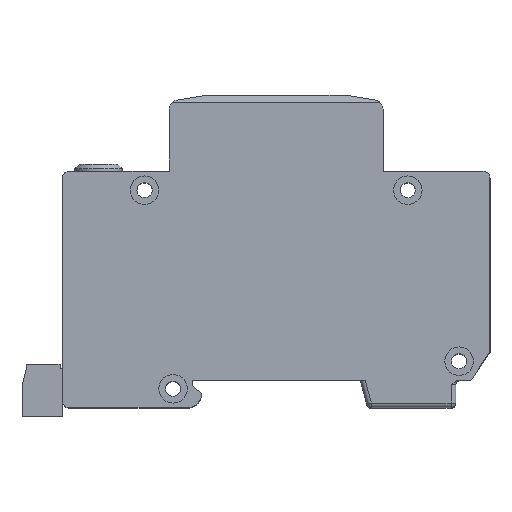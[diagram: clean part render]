
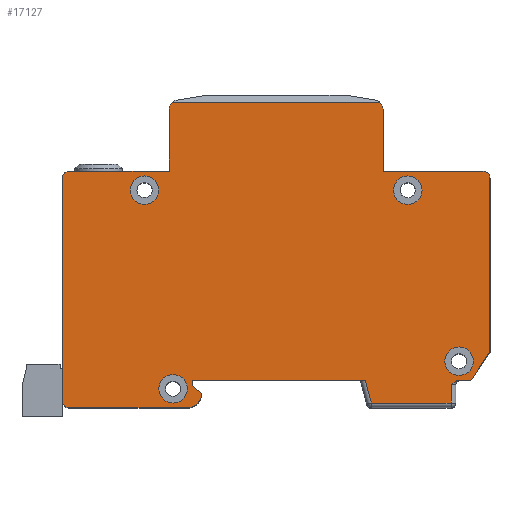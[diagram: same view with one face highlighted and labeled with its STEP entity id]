
A CAD part, top view. The second image highlights one B-rep face of the part: STEP entity #17127.
In plain terms, the highlighted planar face has unit normal (0, 0, 1).
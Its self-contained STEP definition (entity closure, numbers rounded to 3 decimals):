
#182=B_SPLINE_CURVE_WITH_KNOTS('',3,(#27237,#27238,#27239,#27240,#27241,
#27242),.UNSPECIFIED.,.F.,.F.,(4,2,4),(0.506,0.582,
0.7),.UNSPECIFIED.);
#252=FACE_BOUND('',#2508,.T.);
#253=FACE_BOUND('',#2509,.T.);
#254=FACE_BOUND('',#2510,.T.);
#255=FACE_BOUND('',#2511,.T.);
#545=CIRCLE('',#18406,1.5);
#547=CIRCLE('',#18437,1.5);
#549=CIRCLE('',#18443,3.);
#559=CIRCLE('',#18501,1.5);
#578=CIRCLE('',#18537,2.);
#579=CIRCLE('',#18538,2.);
#580=CIRCLE('',#18539,3.);
#581=CIRCLE('',#18540,3.);
#582=CIRCLE('',#18541,3.);
#583=CIRCLE('',#18542,3.);
#1517=FACE_OUTER_BOUND('',#2507,.T.);
#2507=EDGE_LOOP('',(#14101,#14102,#14103,#14104,#14105,#14106,#14107,#14108,
#14109,#14110,#14111,#14112,#14113,#14114,#14115,#14116,#14117,#14118,#14119,
#14120,#14121,#14122,#14123));
#2508=EDGE_LOOP('',(#14124));
#2509=EDGE_LOOP('',(#14125));
#2510=EDGE_LOOP('',(#14126));
#2511=EDGE_LOOP('',(#14127));
#3826=LINE('',#26226,#5821);
#4142=LINE('',#26915,#6137);
#4160=LINE('',#26952,#6155);
#4166=LINE('',#26968,#6161);
#4170=LINE('',#26976,#6165);
#4174=LINE('',#26988,#6169);
#4196=LINE('',#27047,#6191);
#4200=LINE('',#27056,#6195);
#4252=LINE('',#27156,#6247);
#4258=LINE('',#27174,#6253);
#4263=LINE('',#27223,#6258);
#4264=LINE('',#27227,#6259);
#4265=LINE('',#27230,#6260);
#4266=LINE('',#27232,#6261);
#4267=LINE('',#27234,#6262);
#4268=LINE('',#27236,#6263);
#5821=VECTOR('',#21318,10.);
#6137=VECTOR('',#21870,10.);
#6155=VECTOR('',#21910,10.);
#6161=VECTOR('',#21928,10.);
#6165=VECTOR('',#21936,10.);
#6169=VECTOR('',#21948,10.);
#6191=VECTOR('',#22012,10.);
#6195=VECTOR('',#22022,10.);
#6247=VECTOR('',#22118,10.);
#6253=VECTOR('',#22140,10.);
#6258=VECTOR('',#22207,10.);
#6259=VECTOR('',#22210,10.);
#6260=VECTOR('',#22213,10.);
#6261=VECTOR('',#22214,10.);
#6262=VECTOR('',#22215,10.);
#6263=VECTOR('',#22216,10.);
#7607=VERTEX_POINT('',#26223);
#7608=VERTEX_POINT('',#26225);
#7833=VERTEX_POINT('',#26805);
#7863=VERTEX_POINT('',#26913);
#7869=VERTEX_POINT('',#26942);
#7871=VERTEX_POINT('',#26950);
#7873=VERTEX_POINT('',#26958);
#7875=VERTEX_POINT('',#26966);
#7877=VERTEX_POINT('',#26974);
#7881=VERTEX_POINT('',#26986);
#7896=VERTEX_POINT('',#27044);
#7897=VERTEX_POINT('',#27046);
#7899=VERTEX_POINT('',#27054);
#7925=VERTEX_POINT('',#27154);
#7927=VERTEX_POINT('',#27162);
#7929=VERTEX_POINT('',#27172);
#7942=VERTEX_POINT('',#27222);
#7943=VERTEX_POINT('',#27224);
#7944=VERTEX_POINT('',#27226);
#7945=VERTEX_POINT('',#27228);
#7946=VERTEX_POINT('',#27231);
#7947=VERTEX_POINT('',#27233);
#7948=VERTEX_POINT('',#27235);
#7949=VERTEX_POINT('',#27243);
#7950=VERTEX_POINT('',#27245);
#7951=VERTEX_POINT('',#27247);
#7952=VERTEX_POINT('',#27249);
#9604=EDGE_CURVE('',#7608,#7607,#3826,.T.);
#9894=EDGE_CURVE('',#7833,#7607,#545,.T.);
#9950=EDGE_CURVE('',#7833,#7863,#4142,.T.);
#9966=EDGE_CURVE('',#7869,#7863,#547,.T.);
#9970=EDGE_CURVE('',#7869,#7871,#4160,.T.);
#9974=EDGE_CURVE('',#7871,#7873,#549,.T.);
#9978=EDGE_CURVE('',#7873,#7875,#4166,.T.);
#9982=EDGE_CURVE('',#7875,#7877,#4170,.T.);
#9988=EDGE_CURVE('',#7877,#7881,#4174,.T.);
#10017=EDGE_CURVE('',#7896,#7897,#4196,.T.);
#10022=EDGE_CURVE('',#7896,#7899,#4200,.T.);
#10074=EDGE_CURVE('',#7899,#7925,#4252,.T.);
#10078=EDGE_CURVE('',#7927,#7925,#559,.T.);
#10084=EDGE_CURVE('',#7927,#7929,#4258,.T.);
#10105=EDGE_CURVE('',#7929,#7942,#4263,.T.);
#10106=EDGE_CURVE('',#7943,#7942,#578,.T.);
#10107=EDGE_CURVE('',#7944,#7943,#4264,.T.);
#10108=EDGE_CURVE('',#7945,#7944,#579,.T.);
#10109=EDGE_CURVE('',#7945,#7608,#4265,.T.);
#10110=EDGE_CURVE('',#7946,#7881,#4266,.T.);
#10111=EDGE_CURVE('',#7947,#7946,#4267,.T.);
#10112=EDGE_CURVE('',#7948,#7947,#4268,.T.);
#10113=EDGE_CURVE('',#7897,#7948,#182,.T.);
#10114=EDGE_CURVE('',#7949,#7949,#580,.T.);
#10115=EDGE_CURVE('',#7950,#7950,#581,.T.);
#10116=EDGE_CURVE('',#7951,#7951,#582,.T.);
#10117=EDGE_CURVE('',#7952,#7952,#583,.T.);
#14101=ORIENTED_EDGE('',*,*,#10078,.F.);
#14102=ORIENTED_EDGE('',*,*,#10084,.T.);
#14103=ORIENTED_EDGE('',*,*,#10105,.T.);
#14104=ORIENTED_EDGE('',*,*,#10106,.F.);
#14105=ORIENTED_EDGE('',*,*,#10107,.F.);
#14106=ORIENTED_EDGE('',*,*,#10108,.F.);
#14107=ORIENTED_EDGE('',*,*,#10109,.T.);
#14108=ORIENTED_EDGE('',*,*,#9604,.T.);
#14109=ORIENTED_EDGE('',*,*,#9894,.F.);
#14110=ORIENTED_EDGE('',*,*,#9950,.T.);
#14111=ORIENTED_EDGE('',*,*,#9966,.F.);
#14112=ORIENTED_EDGE('',*,*,#9970,.T.);
#14113=ORIENTED_EDGE('',*,*,#9974,.T.);
#14114=ORIENTED_EDGE('',*,*,#9978,.T.);
#14115=ORIENTED_EDGE('',*,*,#9982,.T.);
#14116=ORIENTED_EDGE('',*,*,#9988,.T.);
#14117=ORIENTED_EDGE('',*,*,#10110,.F.);
#14118=ORIENTED_EDGE('',*,*,#10111,.F.);
#14119=ORIENTED_EDGE('',*,*,#10112,.F.);
#14120=ORIENTED_EDGE('',*,*,#10113,.F.);
#14121=ORIENTED_EDGE('',*,*,#10017,.F.);
#14122=ORIENTED_EDGE('',*,*,#10022,.T.);
#14123=ORIENTED_EDGE('',*,*,#10074,.T.);
#14124=ORIENTED_EDGE('',*,*,#10114,.T.);
#14125=ORIENTED_EDGE('',*,*,#10115,.T.);
#14126=ORIENTED_EDGE('',*,*,#10116,.T.);
#14127=ORIENTED_EDGE('',*,*,#10117,.T.);
#16289=PLANE('',#18536);
#17127=ADVANCED_FACE('',(#1517,#252,#253,#254,#255),#16289,.T.);
#18406=AXIS2_PLACEMENT_3D('',#26807,#21769,#21770);
#18437=AXIS2_PLACEMENT_3D('',#26944,#21901,#21902);
#18443=AXIS2_PLACEMENT_3D('',#26960,#21919,#21920);
#18501=AXIS2_PLACEMENT_3D('',#27164,#22127,#22128);
#18536=AXIS2_PLACEMENT_3D('',#27221,#22205,#22206);
#18537=AXIS2_PLACEMENT_3D('',#27225,#22208,#22209);
#18538=AXIS2_PLACEMENT_3D('',#27229,#22211,#22212);
#18539=AXIS2_PLACEMENT_3D('',#27244,#22217,#22218);
#18540=AXIS2_PLACEMENT_3D('',#27246,#22219,#22220);
#18541=AXIS2_PLACEMENT_3D('',#27248,#22221,#22222);
#18542=AXIS2_PLACEMENT_3D('',#27250,#22223,#22224);
#21318=DIRECTION('',(-1.,0.,0.));
#21769=DIRECTION('center_axis',(0.,0.,-1.));
#21770=DIRECTION('ref_axis',(-0.707,0.707,0.));
#21870=DIRECTION('',(0.,-1.,0.));
#21901=DIRECTION('center_axis',(0.,0.,-1.));
#21902=DIRECTION('ref_axis',(-0.707,-0.707,0.));
#21910=DIRECTION('',(1.,0.,0.));
#21919=DIRECTION('center_axis',(0.,0.,1.));
#21920=DIRECTION('ref_axis',(0.,-1.,0.));
#21928=DIRECTION('',(-0.781,0.625,0.));
#21936=DIRECTION('',(0.,1.,0.));
#21948=DIRECTION('',(1.,0.,0.));
#22012=DIRECTION('',(-1.,0.,0.));
#22022=DIRECTION('',(0.555,0.832,0.));
#22118=DIRECTION('',(0.,1.,0.));
#22127=DIRECTION('center_axis',(0.,0.,-1.));
#22128=DIRECTION('ref_axis',(0.707,0.707,0.));
#22140=DIRECTION('',(-1.,0.,0.));
#22205=DIRECTION('center_axis',(0.,0.,1.));
#22206=DIRECTION('ref_axis',(1.,0.,0.));
#22207=DIRECTION('',(0.,1.,0.));
#22208=DIRECTION('center_axis',(0.,0.,-1.));
#22209=DIRECTION('ref_axis',(0.762,0.648,0.));
#22210=DIRECTION('',(1.,0.,0.));
#22211=DIRECTION('center_axis',(0.,0.,-1.));
#22212=DIRECTION('ref_axis',(-0.762,0.648,0.));
#22213=DIRECTION('',(0.,-1.,0.));
#22214=DIRECTION('',(-0.259,0.966,0.));
#22215=DIRECTION('',(-1.,0.,0.));
#22216=DIRECTION('',(0.,-1.,0.));
#22217=DIRECTION('center_axis',(0.,0.,-1.));
#22218=DIRECTION('ref_axis',(1.,0.,0.));
#22219=DIRECTION('center_axis',(0.,0.,-1.));
#22220=DIRECTION('ref_axis',(1.,0.,0.));
#22221=DIRECTION('center_axis',(0.,0.,-1.));
#22222=DIRECTION('ref_axis',(1.,0.,0.));
#22223=DIRECTION('center_axis',(0.,0.,-1.));
#22224=DIRECTION('ref_axis',(1.,0.,0.));
#26223=CARTESIAN_POINT('',(-43.5,14.,17.5));
#26225=CARTESIAN_POINT('',(-22.5,14.,17.5));
#26226=CARTESIAN_POINT('',(-22.5,14.,17.5));
#26805=CARTESIAN_POINT('',(-45.,12.5,17.5));
#26807=CARTESIAN_POINT('Origin',(-43.5,12.5,17.5));
#26913=CARTESIAN_POINT('',(-45.,-34.3,17.5));
#26915=CARTESIAN_POINT('',(-45.,14.,17.5));
#26942=CARTESIAN_POINT('',(-43.5,-35.8,17.5));
#26944=CARTESIAN_POINT('Origin',(-43.5,-34.3,17.5));
#26950=CARTESIAN_POINT('',(-18.7,-35.8,17.5));
#26952=CARTESIAN_POINT('',(-45.,-35.8,17.5));
#26958=CARTESIAN_POINT('',(-15.7,-32.8,17.5));
#26960=CARTESIAN_POINT('Origin',(-18.7,-32.8,17.5));
#26966=CARTESIAN_POINT('',(-17.7,-31.2,17.5));
#26968=CARTESIAN_POINT('',(-15.7,-32.8,17.5));
#26974=CARTESIAN_POINT('',(-17.7,-30.,17.5));
#26976=CARTESIAN_POINT('',(-17.7,-31.2,17.5));
#26986=CARTESIAN_POINT('',(18.735,-30.,17.5));
#26988=CARTESIAN_POINT('',(-17.7,-30.,17.5));
#27044=CARTESIAN_POINT('',(41.,-30.,17.5));
#27046=CARTESIAN_POINT('',(38.532,-30.,17.5));
#27047=CARTESIAN_POINT('',(18.592,-30.,17.5));
#27054=CARTESIAN_POINT('',(45.,-24.,17.5));
#27056=CARTESIAN_POINT('',(41.,-30.,17.5));
#27154=CARTESIAN_POINT('',(45.,12.5,17.5));
#27156=CARTESIAN_POINT('',(45.,-24.,17.5));
#27162=CARTESIAN_POINT('',(43.5,14.,17.5));
#27164=CARTESIAN_POINT('Origin',(43.5,12.5,17.5));
#27172=CARTESIAN_POINT('',(22.5,14.,17.5));
#27174=CARTESIAN_POINT('',(45.,14.,17.5));
#27221=CARTESIAN_POINT('Origin',(-0.615,-5.122,17.5));
#27222=CARTESIAN_POINT('',(22.5,26.999,17.5));
#27223=CARTESIAN_POINT('',(22.5,14.,17.5));
#27224=CARTESIAN_POINT('',(21.821,28.5,17.5));
#27225=CARTESIAN_POINT('Origin',(20.5,26.999,17.5));
#27226=CARTESIAN_POINT('',(-21.821,28.5,17.5));
#27227=CARTESIAN_POINT('',(10.942,28.5,17.5));
#27228=CARTESIAN_POINT('',(-22.5,26.999,17.5));
#27229=CARTESIAN_POINT('Origin',(-20.5,26.999,17.5));
#27230=CARTESIAN_POINT('',(-22.5,30.,17.5));
#27231=CARTESIAN_POINT('',(20.021,-34.8,17.5));
#27232=CARTESIAN_POINT('',(14.943,-15.846,17.5));
#27233=CARTESIAN_POINT('',(36.8,-34.8,17.5));
#27234=CARTESIAN_POINT('',(9.319,-34.8,17.5));
#27235=CARTESIAN_POINT('',(36.8,-31.,17.5));
#27236=CARTESIAN_POINT('',(36.8,-20.461,17.5));
#27237=CARTESIAN_POINT('Ctrl Pts',(38.532,-30.,17.5));
#27238=CARTESIAN_POINT('Ctrl Pts',(38.277,-30.,17.5));
#27239=CARTESIAN_POINT('Ctrl Pts',(37.985,-30.09,17.5));
#27240=CARTESIAN_POINT('Ctrl Pts',(37.415,-30.396,17.5));
#27241=CARTESIAN_POINT('Ctrl Pts',(37.077,-30.723,17.5));
#27242=CARTESIAN_POINT('Ctrl Pts',(36.8,-31.,17.5));
#27243=CARTESIAN_POINT('',(35.5,-26.,17.5));
#27244=CARTESIAN_POINT('Origin',(38.5,-26.,17.5));
#27245=CARTESIAN_POINT('',(24.7,10.,17.5));
#27246=CARTESIAN_POINT('Origin',(27.7,10.,17.5));
#27247=CARTESIAN_POINT('',(-30.7,10.,17.5));
#27248=CARTESIAN_POINT('Origin',(-27.7,10.,17.5));
#27249=CARTESIAN_POINT('',(-24.7,-31.8,17.5));
#27250=CARTESIAN_POINT('Origin',(-21.7,-31.8,17.5));
